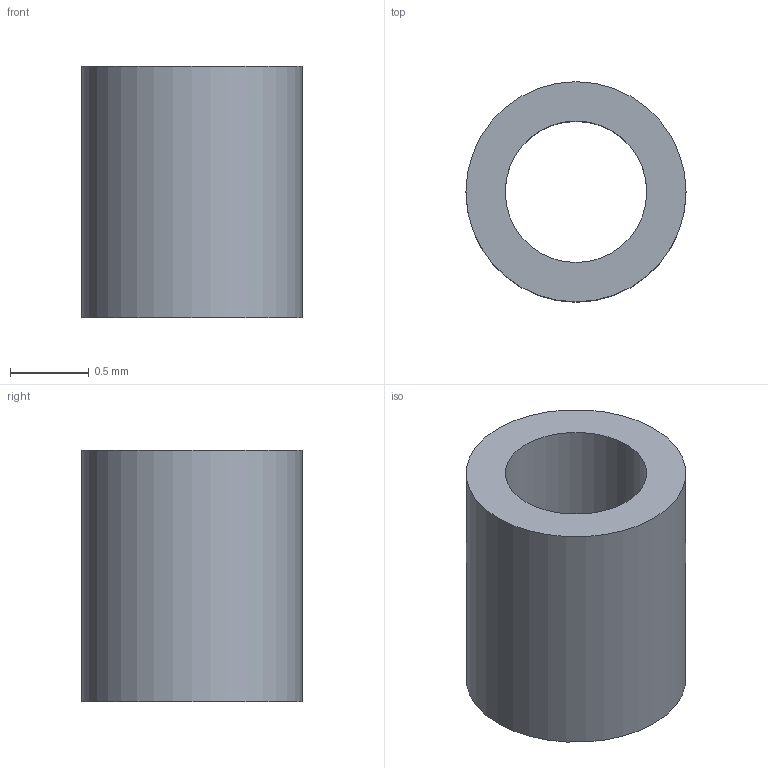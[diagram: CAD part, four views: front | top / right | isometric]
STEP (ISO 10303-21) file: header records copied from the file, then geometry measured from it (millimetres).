
FILE_DESCRIPTION(/* description */ ('STEP AP242 Edition 2','CAx-IF Rec.Pracs.---Representation and Presentation of Product Manufacturing Information (PMI)---4.0---2014-10-13','CAx-IF Rec.Pracs.---3D Tessellated Geometry---0.4---2014-09-14','2;1','CAx-IF Rec.Pracs.---User Defined Attributes---1.5---2016-08-15'),/* implementation_level */ '2;1');
FILE_NAME(/* name */ 'Drone Layout - Surface 335',/* time_stamp */ '2026-10-04T22:22:56Z',/* author */ (''),/* organization */ (''),/* preprocessor_version */ 'ST-DEVELOPER v20',/* originating_system */ 'ONSHAPE BY PTC INC, 1.221',/* authorisation */ ' ');
FILE_SCHEMA (('AP242_MANAGED_MODEL_BASED_3D_ENGINEERING_MIM_LF { 1 0 10303 442 3 1 4 }'));
Length unit declared in the file: metre
Products named in the file (1): VL53L0X:1__SCL
Bounding box: 1.4 x 1.4 x 1.6 mm (x, y, z)
Volume: 1.4 mm3; surface area: 13.4 mm2
Topology: 1 solids, 1 shells, 4 faces, 6 edges, 4 vertices
Faces by surface type: cylinder 2, plane 2
Full cylindrical faces by diameter (mm): 0.9 x1, 1.4 x1
Entity records: 111 total; most frequent: DIRECTION 20, CARTESIAN_POINT 15, ORIENTED_EDGE 12, AXIS2_PLACEMENT_3D 9, EDGE_CURVE 6, EDGE_LOOP 6, FACE_BOUND 6, VERTEX_POINT 4
